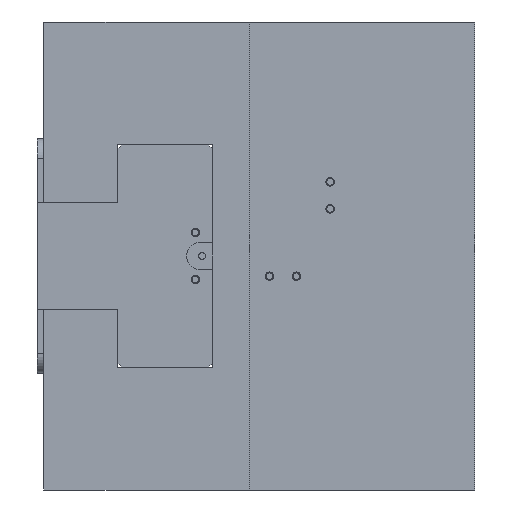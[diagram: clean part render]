
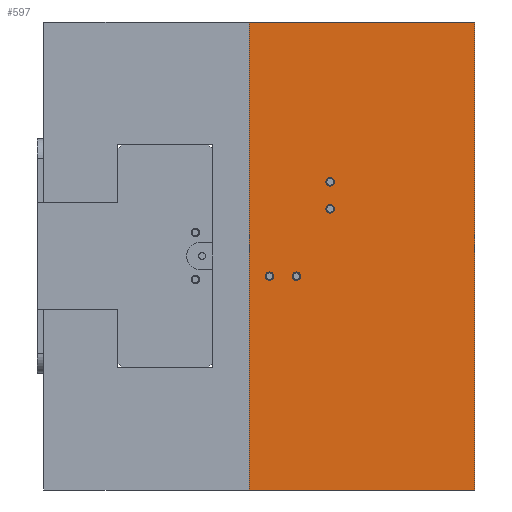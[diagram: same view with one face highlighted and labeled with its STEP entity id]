
A CAD part, left-side view. The second image highlights one B-rep face of the part: STEP entity #597.
In plain terms, the highlighted planar face has unit normal (-1, 0, 0).
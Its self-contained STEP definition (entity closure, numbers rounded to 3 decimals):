
#597 = ADVANCED_FACE( '', ( #1403, #1404, #1405, #1406, #1407 ), #1408, .F. );
#1403 = FACE_BOUND( '', #2471, .T. );
#1404 = FACE_BOUND( '', #2472, .T. );
#1405 = FACE_OUTER_BOUND( '', #2473, .T. );
#1406 = FACE_BOUND( '', #2474, .T. );
#1407 = FACE_BOUND( '', #2475, .T. );
#1408 = PLANE( '', #2476 );
#2471 = EDGE_LOOP( '', ( #3968 ) );
#2472 = EDGE_LOOP( '', ( #3969 ) );
#2473 = EDGE_LOOP( '', ( #3970, #3971, #3972, #3973 ) );
#2474 = EDGE_LOOP( '', ( #3974 ) );
#2475 = EDGE_LOOP( '', ( #3975 ) );
#2476 = AXIS2_PLACEMENT_3D( '', #3976, #3977, #3978 );
#3968 = ORIENTED_EDGE( '', *, *, #5709, .T. );
#3969 = ORIENTED_EDGE( '', *, *, #5536, .T. );
#3970 = ORIENTED_EDGE( '', *, *, #5571, .T. );
#3971 = ORIENTED_EDGE( '', *, *, #5621, .F. );
#3972 = ORIENTED_EDGE( '', *, *, #5358, .F. );
#3973 = ORIENTED_EDGE( '', *, *, #5556, .T. );
#3974 = ORIENTED_EDGE( '', *, *, #5734, .T. );
#3975 = ORIENTED_EDGE( '', *, *, #5642, .T. );
#3976 = CARTESIAN_POINT( '', ( -110., 67., 69.5 ) );
#3977 = DIRECTION( '', ( 1., 0., 0. ) );
#3978 = DIRECTION( '', ( 0., 0., -1. ) );
#5358 = EDGE_CURVE( '', #6213, #6215, #6216, .T. );
#5536 = EDGE_CURVE( '', #6523, #6523, #6524, .T. );
#5556 = EDGE_CURVE( '', #6213, #6558, #6560, .T. );
#5571 = EDGE_CURVE( '', #6558, #6580, #6582, .T. );
#5621 = EDGE_CURVE( '', #6215, #6580, #6664, .T. );
#5642 = EDGE_CURVE( '', #6693, #6693, #6694, .T. );
#5709 = EDGE_CURVE( '', #6793, #6793, #6794, .T. );
#5734 = EDGE_CURVE( '', #6832, #6832, #6833, .T. );
#6213 = VERTEX_POINT( '', #7657 );
#6215 = VERTEX_POINT( '', #7660 );
#6216 = LINE( '', #7661, #7662 );
#6523 = VERTEX_POINT( '', #8137 );
#6524 = CIRCLE( '', #8138, 1.25 );
#6558 = VERTEX_POINT( '', #8177 );
#6560 = LINE( '', #8180, #8181 );
#6580 = VERTEX_POINT( '', #8205 );
#6582 = LINE( '', #8208, #8209 );
#6664 = LINE( '', #8312, #8313 );
#6693 = VERTEX_POINT( '', #8351 );
#6694 = CIRCLE( '', #8352, 1.25 );
#6793 = VERTEX_POINT( '', #8478 );
#6794 = CIRCLE( '', #8479, 1.25 );
#6832 = VERTEX_POINT( '', #8600 );
#6833 = CIRCLE( '', #8601, 1.25 );
#7657 = CARTESIAN_POINT( '', ( -110., 67., 69.5 ) );
#7660 = CARTESIAN_POINT( '', ( -110., 0., 69.5 ) );
#7661 = CARTESIAN_POINT( '', ( -110., 67., 69.5 ) );
#7662 = VECTOR( '', #9633, 1000. );
#8137 = CARTESIAN_POINT( '', ( -110., 53., -7.25 ) );
#8138 = AXIS2_PLACEMENT_3D( '', #9866, #9867, #9868 );
#8177 = CARTESIAN_POINT( '', ( -110., 67., -69.5 ) );
#8180 = CARTESIAN_POINT( '', ( -110., 67., 69.5 ) );
#8181 = VECTOR( '', #9905, 1000. );
#8205 = CARTESIAN_POINT( '', ( -110., 0., -69.5 ) );
#8208 = CARTESIAN_POINT( '', ( -110., 67., -69.5 ) );
#8209 = VECTOR( '', #9926, 1000. );
#8312 = CARTESIAN_POINT( '', ( -110., 0., 69.5 ) );
#8313 = VECTOR( '', #9990, 1000. );
#8351 = CARTESIAN_POINT( '', ( -110., 43., 20.75 ) );
#8352 = AXIS2_PLACEMENT_3D( '', #10015, #10016, #10017 );
#8478 = CARTESIAN_POINT( '', ( -110., 43., 12.75 ) );
#8479 = AXIS2_PLACEMENT_3D( '', #10099, #10100, #10101 );
#8600 = CARTESIAN_POINT( '', ( -110., 61., -7.25 ) );
#8601 = AXIS2_PLACEMENT_3D( '', #10129, #10130, #10131 );
#9633 = DIRECTION( '', ( 0., -1., 0. ) );
#9866 = CARTESIAN_POINT( '', ( -110., 53., -6. ) );
#9867 = DIRECTION( '', ( 1., 0., 0. ) );
#9868 = DIRECTION( '', ( 0., 0., -1. ) );
#9905 = DIRECTION( '', ( 0., 0., -1. ) );
#9926 = DIRECTION( '', ( 0., -1., 0. ) );
#9990 = DIRECTION( '', ( 0., 0., -1. ) );
#10015 = CARTESIAN_POINT( '', ( -110., 43., 22. ) );
#10016 = DIRECTION( '', ( 1., 0., 0. ) );
#10017 = DIRECTION( '', ( 0., 0., -1. ) );
#10099 = CARTESIAN_POINT( '', ( -110., 43., 14. ) );
#10100 = DIRECTION( '', ( 1., 0., 0. ) );
#10101 = DIRECTION( '', ( 0., 0., -1. ) );
#10129 = CARTESIAN_POINT( '', ( -110., 61., -6. ) );
#10130 = DIRECTION( '', ( 1., 0., 0. ) );
#10131 = DIRECTION( '', ( 0., 0., -1. ) );
